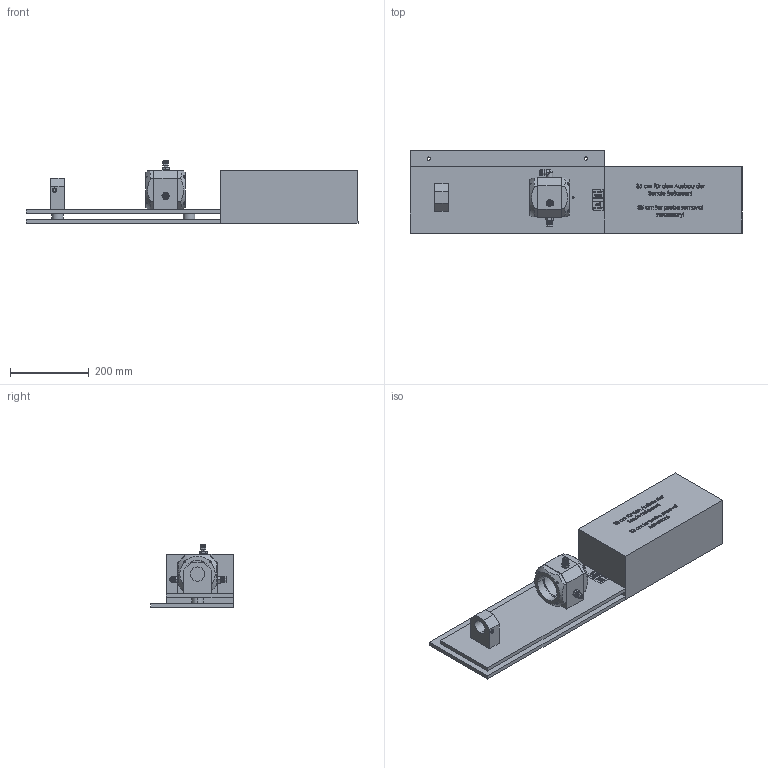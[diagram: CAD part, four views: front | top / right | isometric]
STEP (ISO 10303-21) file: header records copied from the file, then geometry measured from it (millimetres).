
FILE_DESCRIPTION (( 'STEP AP203' ), '1' );
FILE_NAME ('LZX867_TD_00000__001.STEP', '2023-04-28T07:00:54', ( '' ), ( '' ), 'SwSTEP 2.0', 'SolidWorks 2022', '' );
FILE_SCHEMA (( 'CONFIG_CONTROL_DESIGN' ));
Length unit declared in the file: millimetre
Products named in the file (18): HRR169_Druckring 2; LZX869-001_Freiraum Ein-Ausbau; NNG003_Zylinderschraube mit Innensechskant; LZX867_TD_00000__001; HPM025_Montageplatte; countersunk flat head cross recess screw_iso_ISO 7046-1 - M5 x 20 - Z --- 20N; BVQ846_Durchflußeinheit; HRR168_Druckring 1; countersunk flat head cross recess screw_iso_ISO 7046-1 - M6 x 35 - Z - 35N; EXA070_Einschraubverschraubung, weiß; HPM024_Trägerplatte; EZD169_O-Ring 70,00 x 5,00 - EPDM 70; AXA005_Einschraubverschraubung ; HPP528_Anschlagplatte; HRB163_Distanzbuchse; HVQ634_Messkammer; EXA058_Winkel-Einschraubverschraubung; HDH676_Hinweisschild
Assembly tree (28 placements, depth 3):
  LZX867_TD_00000__001
    BVQ846_Durchflußeinheit
      HPM025_Montageplatte
      HPP528_Anschlagplatte
      HVQ634_Messkammer
      HRR168_Druckring 1
      HRR169_Druckring 2
      EZD169_O-Ring 70,00 x 5,00 - EPDM 70  x2
      HPM024_Trägerplatte
      EXA058_Winkel-Einschraubverschraubung
      EXA070_Einschraubverschraubung, weiß
      AXA005_Einschraubverschraubung 
      HDH676_Hinweisschild
      HRB163_Distanzbuchse  x2
      countersunk flat head cross recess screw_iso_ISO 7046-1 - M6 x 35 - Z - 35N  x2
      countersunk flat head cross recess screw_iso_ISO 7046-1 - M5 x 20 - Z --- 20N  x6
      NNG003_Zylinderschraube mit Innensechskant  x4
    LZX869-001_Freiraum Ein-Ausbau
Bounding box: 845 x 210 x 160 mm (x, y, z)
Volume: 10604095.2 mm3; surface area: 827600.1 mm2
Topology: 27 solids, 27 shells, 3721 faces, 9710 edges, 6323 vertices
Faces by surface type: plane 1596, bspline 1554, cylinder 281, cone 192, sphere 50, torus 48
Entity records: 177211 total; most frequent: CARTESIAN_POINT 101226, ORIENTED_EDGE 17900, DIRECTION 10123, EDGE_CURVE 8950, VERTEX_POINT 5886, LINE 5037, VECTOR 5037, EDGE_LOOP 3788
